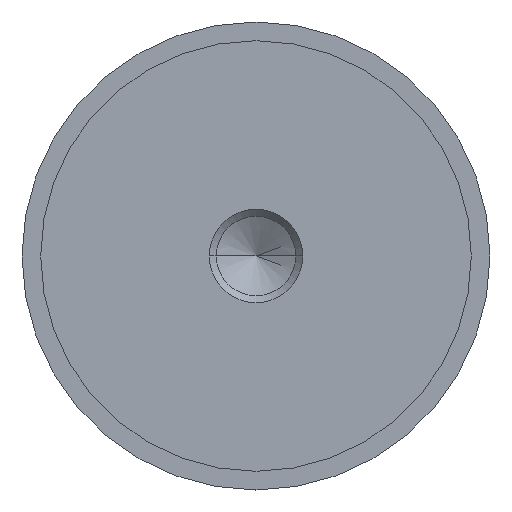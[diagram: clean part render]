
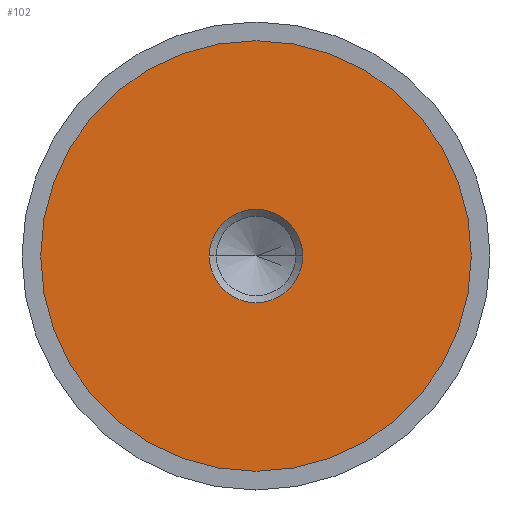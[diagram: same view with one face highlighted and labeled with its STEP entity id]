
A CAD part, left-side view. The second image highlights one B-rep face of the part: STEP entity #102.
In plain terms, the highlighted planar face has unit normal (-1, 0, 0).
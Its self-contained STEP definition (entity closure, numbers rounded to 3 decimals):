
#4 = CIRCLE ( 'NONE', #777, 4.99 ) ;
#8 = FACE_BOUND ( 'NONE', #219, .T. ) ;
#13 = EDGE_CURVE ( 'NONE', #132, #86, #161, .T. ) ;
#15 = DIRECTION ( 'NONE',  ( 0., 0., -1. ) ) ;
#52 = CARTESIAN_POINT ( 'NONE',  ( -14.99, 0., 0. ) ) ;
#60 = CARTESIAN_POINT ( 'NONE',  ( -14.99, 0., -23. ) ) ;
#86 = VERTEX_POINT ( 'NONE', #60 ) ;
#89 = ORIENTED_EDGE ( 'NONE', *, *, #13, .T. ) ;
#102 = ADVANCED_FACE ( 'NONE', ( #8, #366 ), #549, .F. ) ;
#107 = VERTEX_POINT ( 'NONE', #303 ) ;
#132 = VERTEX_POINT ( 'NONE', #177 ) ;
#155 = EDGE_CURVE ( 'NONE', #86, #132, #234, .T. ) ;
#161 = CIRCLE ( 'NONE', #640, 23. ) ;
#169 = DIRECTION ( 'NONE',  ( 1., 0., 0. ) ) ;
#177 = CARTESIAN_POINT ( 'NONE',  ( -14.99, 0., 23. ) ) ;
#201 = DIRECTION ( 'NONE',  ( 0., 0., -1. ) ) ;
#219 = EDGE_LOOP ( 'NONE', ( #265, #408 ) ) ;
#229 = DIRECTION ( 'NONE',  ( -1., 0., 0. ) ) ;
#234 = CIRCLE ( 'NONE', #342, 23. ) ;
#248 = EDGE_CURVE ( 'NONE', #107, #462, #652, .T. ) ;
#253 = CARTESIAN_POINT ( 'NONE',  ( -14.99, 23., 0. ) ) ;
#265 = ORIENTED_EDGE ( 'NONE', *, *, #773, .T. ) ;
#297 = DIRECTION ( 'NONE',  ( -1., 0., 0. ) ) ;
#303 = CARTESIAN_POINT ( 'NONE',  ( -14.99, 4.99, 0. ) ) ;
#342 = AXIS2_PLACEMENT_3D ( 'NONE', #52, #297, #472 ) ;
#366 = FACE_OUTER_BOUND ( 'NONE', #725, .T. ) ;
#408 = ORIENTED_EDGE ( 'NONE', *, *, #248, .T. ) ;
#428 = CARTESIAN_POINT ( 'NONE',  ( -14.99, 0., 0. ) ) ;
#445 = CARTESIAN_POINT ( 'NONE',  ( -14.99, 0., 0. ) ) ;
#462 = VERTEX_POINT ( 'NONE', #704 ) ;
#466 = DIRECTION ( 'NONE',  ( 0., 0., 1. ) ) ;
#472 = DIRECTION ( 'NONE',  ( 0., 0., 1. ) ) ;
#494 = DIRECTION ( 'NONE',  ( 0., 0., -1. ) ) ;
#549 = PLANE ( 'NONE',  #701 ) ;
#555 = DIRECTION ( 'NONE',  ( 1., 0., 0. ) ) ;
#631 = DIRECTION ( 'NONE',  ( 1., 0., 0. ) ) ;
#640 = AXIS2_PLACEMENT_3D ( 'NONE', #641, #229, #466 ) ;
#641 = CARTESIAN_POINT ( 'NONE',  ( -14.99, 0., 0. ) ) ;
#645 = ORIENTED_EDGE ( 'NONE', *, *, #155, .T. ) ;
#652 = CIRCLE ( 'NONE', #752, 4.99 ) ;
#701 = AXIS2_PLACEMENT_3D ( 'NONE', #253, #169, #494 ) ;
#704 = CARTESIAN_POINT ( 'NONE',  ( -14.99, -4.99, 0. ) ) ;
#725 = EDGE_LOOP ( 'NONE', ( #89, #645 ) ) ;
#752 = AXIS2_PLACEMENT_3D ( 'NONE', #445, #631, #201 ) ;
#773 = EDGE_CURVE ( 'NONE', #462, #107, #4, .T. ) ;
#777 = AXIS2_PLACEMENT_3D ( 'NONE', #428, #555, #15 ) ;
